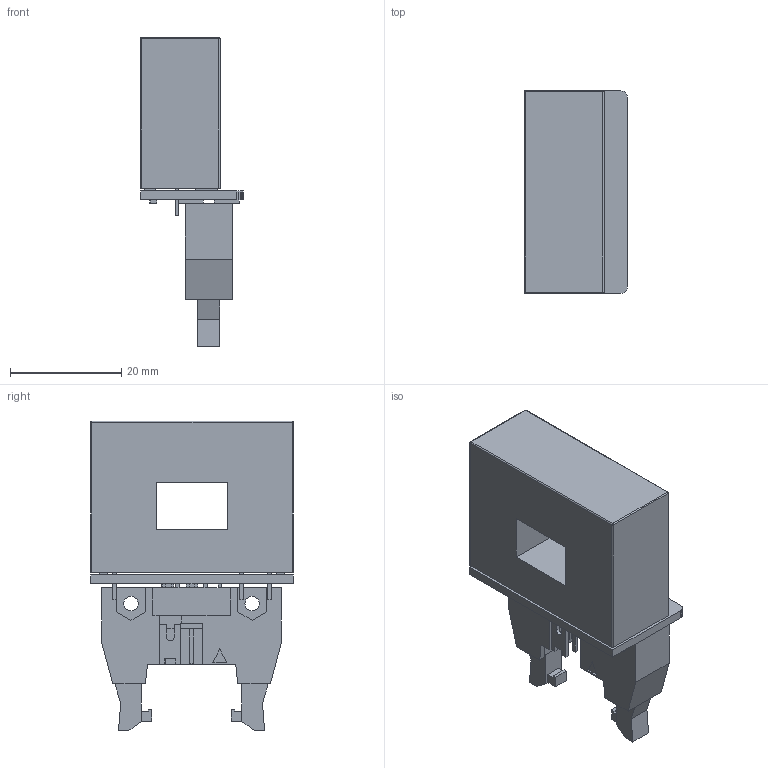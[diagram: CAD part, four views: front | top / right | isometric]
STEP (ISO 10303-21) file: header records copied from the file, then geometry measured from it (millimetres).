
FILE_DESCRIPTION(('for SolidWorks'),'2;1');
FILE_NAME('E:\Google Drive\03 Research & Development Projects\09 Measurement Card USM-3IV\07 3D Modeling\CT100\CT100.step','2017-04-19T13:59:45',( 'ghayurshah'),(''),'Open CASCADE STEP processor 6.6','Diptrace', 'Unknown');
FILE_SCHEMA(('AUTOMOTIVE_DESIGN { 1 0 10303 214 1 1 1 1 }'));
Length unit declared in the file: millimetre
Products named in the file (5): PCB; Board; Model_2; Model_5; Model_7
Assembly tree (5 placements, depth 2):
  PCB
    Board
    Model_2  x2
    Model_5
    Model_7
Bounding box: 18.5 x 36.5 x 55.71 mm (x, y, z)
Volume: 1079.4 mm3; surface area: 8679.8 mm2
Topology: 1 solids, 5 shells, 375 faces, 957 edges, 596 vertices
Faces by surface type: plane 296, cylinder 59, sphere 20
Entity records: 12233 total; most frequent: CARTESIAN_POINT 1742, ORIENTED_EDGE 1706, DIRECTION 1621, EDGE_CURVE 853, LINE 767, VECTOR 767, VERTEX_POINT 548, AXIS2_PLACEMENT_3D 427
